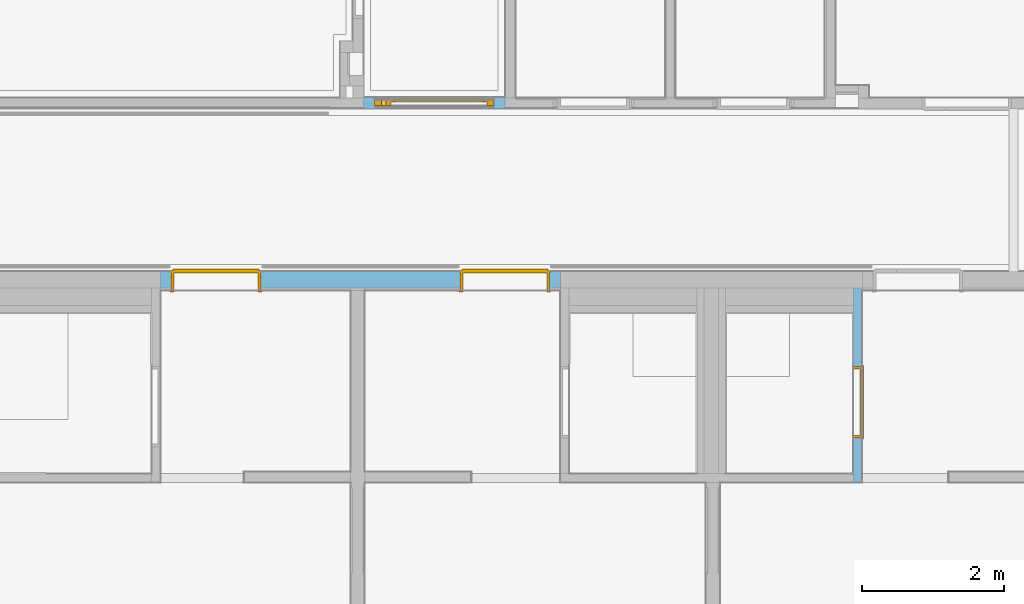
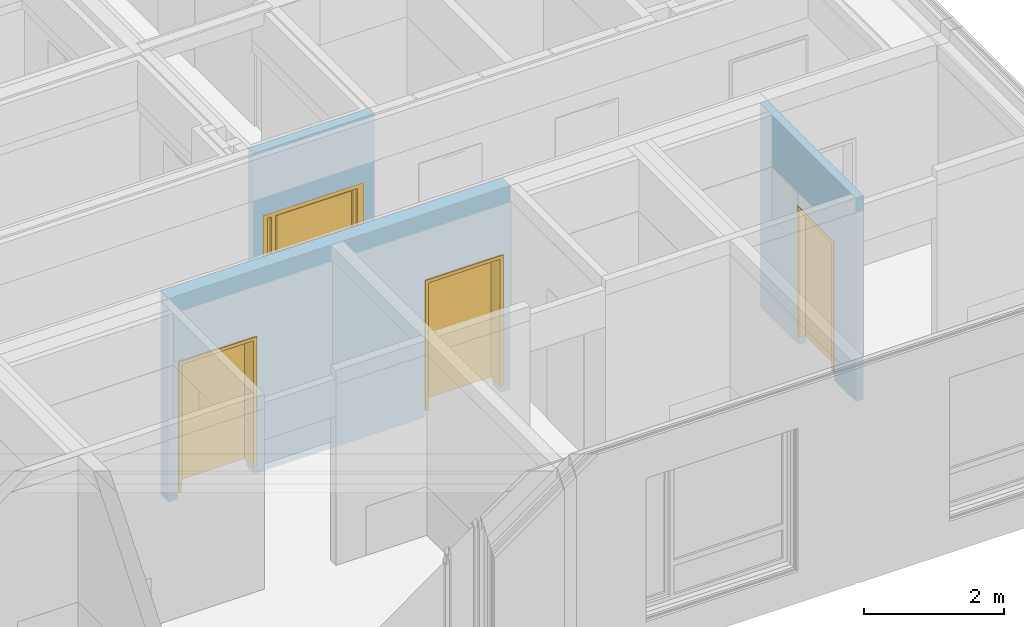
# One storey, part 132 of 222: 4 doors, 4 openings, plus 3 elements that do not belong to this part.
"""IFC4 building model written with IfcOpenShell, lengths in metres."""

import ifcopenshell
import ifcopenshell.guid

model = None  # the IFC model being written
_history = None  # IfcOwnerHistory: only IFC2X3 demands one
_inside = {}  # id of a spatial element -> (the spatial element, [elements in it])
_under = {}  # id of a project, library or spatial element -> (it, [spatial elements below it])
_declared = {}  # id of a project -> (the project, [libraries it declares])
_typed = {}  # id of a type object -> (the type object, [elements of that type])
_made_of = {}  # id of a material, layer set ... -> (it, [elements and type objects made of it])


def new_model(schema):
    """Start an empty IFC model of exactly this schema.

    Asked for "IFC4X3", IfcOpenShell would pick the latest addendum, in which some entities
    have other attributes; the version numbers below select the first issue.
    IFC2X3 requires an IfcOwnerHistory on every rooted entity: one is made here for all.
    """
    global model, _history
    if schema == "IFC4X3":
        model = ifcopenshell.file(schema_version=(4, 3, 0, 0))
    else:
        model = ifcopenshell.file(schema=schema)
    _inside.clear()
    _under.clear()
    _declared.clear()
    _typed.clear()
    _made_of.clear()
    _history = None
    if model.schema == "IFC2X3":
        org = make("IfcOrganization", Name="unknown")
        user = make(
            "IfcPersonAndOrganization",
            ThePerson=make("IfcPerson", FamilyName="unknown"),
            TheOrganization=org,
        )
        app = make(
            "IfcApplication",
            ApplicationDeveloper=org,
            Version="unknown",
            ApplicationFullName="unknown",
            ApplicationIdentifier="unknown",
        )
        _history = make(
            "IfcOwnerHistory",
            OwningUser=user,
            OwningApplication=app,
            ChangeAction="ADDED",
            CreationDate=0,
        )
    return model


def make(cls, **values):
    """One entity of the class cls with the attributes given. An attribute that is None is left unset."""
    return model.create_entity(
        cls, **{name: value for name, value in values.items() if value is not None}
    )


def entity(cls, *values):
    """Any entity or typed value of the class cls, its attributes in the order of the schema. None: left unset."""
    e = model.create_entity(cls)
    for i, value in enumerate(values):
        if value is not None:
            e[i] = value
    return e


def rooted(cls, **values):
    """An entity with a GlobalId (a new one), such as an element, a storey or a relation."""
    return make(cls, GlobalId=ifcopenshell.guid.new(), OwnerHistory=_history, **values)


def si_unit(unit_type, name, prefix=None):
    """IfcSIUnit, for example si_unit("LENGTHUNIT", "METRE", prefix="MILLI")."""
    return make("IfcSIUnit", UnitType=unit_type, Prefix=prefix, Name=name)


def converted_unit(unit_type, name, factor, base, dimensions=None, offset=None):
    """IfcConversionBasedUnit, such as the inch: factor (a typed value) times the base unit."""
    return make(
        "IfcConversionBasedUnit"
        if offset is None
        else "IfcConversionBasedUnitWithOffset",
        ConversionOffset=offset,
        Dimensions=None
        if dimensions is None
        else entity("IfcDimensionalExponents", *dimensions),
        UnitType=unit_type,
        Name=name,
        ConversionFactor=make(
            "IfcMeasureWithUnit", ValueComponent=factor, UnitComponent=base
        ),
    )


def derived_unit(unit_type, elements):
    """IfcDerivedUnit: a product of units, each with its exponent."""
    return make(
        "IfcDerivedUnit",
        Elements=[
            make("IfcDerivedUnitElement", Unit=unit, Exponent=power)
            for unit, power in elements
        ],
        UnitType=unit_type,
    )


def assignment(units):
    """IfcUnitAssignment: the units of a project."""
    return None if units is None else make("IfcUnitAssignment", Units=units)


def point(xyz):
    """IfcCartesianPoint."""
    return None if xyz is None else make("IfcCartesianPoint", Coordinates=xyz)


def direction(xyz):
    """IfcDirection."""
    return None if xyz is None else make("IfcDirection", DirectionRatios=xyz)


def frame(location, z_axis=None, x_axis=None):
    """IfcAxis2Placement3D, a coordinate frame: its origin and axes. An axis left out is left unset."""
    return make(
        "IfcAxis2Placement3D",
        Location=point(location),
        Axis=direction(z_axis),
        RefDirection=direction(x_axis),
    )


def frame_2d(location, x_axis=None):
    """IfcAxis2Placement2D, a coordinate frame in the plane: its origin and x axis."""
    return make(
        "IfcAxis2Placement2D", Location=point(location), RefDirection=direction(x_axis)
    )


def origin():
    """The frame at (0, 0, 0) with its axes left unset."""
    return frame((0.0, 0.0, 0.0))


def origin_with_axes():
    """The frame at (0, 0, 0) with the z axis (0, 0, 1) and the x axis (1, 0, 0) written out."""
    return frame((0.0, 0.0, 0.0), z_axis=(0.0, 0.0, 1.0), x_axis=(1.0, 0.0, 0.0))


def place(relative_to, where):
    """IfcLocalPlacement: puts the frame where relative to a parent placement (None: the world)."""
    return make(
        "IfcLocalPlacement", PlacementRelTo=relative_to, RelativePlacement=where
    )


def context(
    kind, dimensions, precision=None, world=None, true_north=None, identifier=None
):
    """IfcGeometricRepresentationContext, for example the 3D "Model" context."""
    return make(
        "IfcGeometricRepresentationContext",
        ContextIdentifier=identifier,
        ContextType=kind,
        CoordinateSpaceDimension=dimensions,
        Precision=precision,
        WorldCoordinateSystem=world,
        TrueNorth=true_north,
    )


def subcontext(parent, identifier, kind, view, scale=None):
    """IfcGeometricRepresentationSubContext, for example "Body" below "Model"."""
    return make(
        "IfcGeometricRepresentationSubContext",
        ContextIdentifier=identifier,
        ContextType=kind,
        ParentContext=parent,
        TargetScale=scale,
        TargetView=view,
    )


def project(units=None, contexts=None):
    """IfcProject with its units and contexts."""
    return rooted(
        "IfcProject",
        Name="project",
        RepresentationContexts=contexts,
        UnitsInContext=assignment(units),
    )


def spatial(cls, under=None, at=None, **own):
    """A site, building, storey or space (cls), placed at a placement, below another one or the project."""
    s = rooted(cls, ObjectPlacement=at, **own)
    if under is not None:
        _under.setdefault(under.id(), (under, []))[1].append(s)
    return s


def polyline(points):
    """IfcPolyline through the points."""
    return make("IfcPolyline", Points=[point(p) for p in points])


def profile(cls, at=None, kind="AREA", **sizes):
    """A parametric profile (cls). Its sizes go by their IFC names, for example OverallWidth=200.0."""
    return make(cls, ProfileType=kind, Position=at, **sizes)


def rectangle(**sizes):
    """IfcRectangleProfileDef."""
    return profile("IfcRectangleProfileDef", **sizes)


def outline(outer, holes=None, kind="AREA"):
    """IfcArbitraryClosedProfileDef: a profile drawn as a closed curve; with holes, ...WithVoids."""
    if holes is None:
        return make("IfcArbitraryClosedProfileDef", ProfileType=kind, OuterCurve=outer)
    return make(
        "IfcArbitraryProfileDefWithVoids",
        ProfileType=kind,
        OuterCurve=outer,
        InnerCurves=holes,
    )


def extrude(swept, where, along, depth):
    """IfcExtrudedAreaSolid: the profile swept, set in the frame where, extruded along a direction by depth."""
    return make(
        "IfcExtrudedAreaSolid",
        SweptArea=swept,
        Position=where,
        ExtrudedDirection=direction(along),
        Depth=depth,
    )


def faces_of(points, faces, orient=None, outer=None):
    """IfcFace entities. A face is a list of loops; a loop is a list of indices into points, from 0.

    orient and outer hold one flag for each loop. By default every Orientation is true, the
    first loop of a face is its IfcFaceOuterBound and the others are IfcFaceBound.
    """
    made = []
    for i, loops in enumerate(faces):
        bounds = []
        for j, loop in enumerate(loops):
            is_outer = j == 0 if outer is None else outer[i][j]
            bounds.append(
                make(
                    "IfcFaceOuterBound" if is_outer else "IfcFaceBound",
                    Bound=make("IfcPolyLoop", Polygon=[points[k] for k in loop]),
                    Orientation=True if orient is None else orient[i][j],
                )
            )
        made.append(make("IfcFace", Bounds=bounds))
    return made


def closed_shell(faces, orient=None, outer=None):
    """The faces of one IfcClosedShell. faceted_brep and surface_model build it on their shared points."""
    return ("IfcClosedShell", faces, orient, outer)


def open_shell(faces, orient=None, outer=None):
    """The faces of one IfcOpenShell. surface_model builds it on its shared points."""
    return ("IfcOpenShell", faces, orient, outer)


def faceted_brep(points, faces, orient=None, outer=None, voids=None):
    """IfcFacetedBrep: a solid bounded by flat faces; with voids (closed shells), ...WithVoids."""
    shared = [point(p) for p in points]
    hull = make("IfcClosedShell", CfsFaces=faces_of(shared, faces, orient, outer))
    if voids is None:
        return make("IfcFacetedBrep", Outer=hull)
    return make(
        "IfcFacetedBrepWithVoids",
        Outer=hull,
        Voids=[
            make(cls, CfsFaces=faces_of(shared, fs, o, b)) for cls, fs, o, b in voids
        ],
    )


def surface_model(cls, points, shells):
    """IfcFaceBasedSurfaceModel or IfcShellBasedSurfaceModel (cls): surfaces that need not close."""
    shared = [point(p) for p in points]
    made = [make(c, CfsFaces=faces_of(shared, fs, o, b)) for c, fs, o, b in shells]
    if cls == "IfcFaceBasedSurfaceModel":
        return make(cls, FbsmFaces=made)
    return make(cls, SbsmBoundary=made)


def shape(context_of_items, identifier, shape_type, items):
    """IfcShapeRepresentation: the items that make up one representation, for example the "Body"."""
    return make(
        "IfcShapeRepresentation",
        ContextOfItems=context_of_items,
        RepresentationIdentifier=identifier,
        RepresentationType=shape_type,
        Items=items,
    )


def source(mapping_origin, context_of_items, identifier, shape_type, items):
    """IfcRepresentationMap: a shape defined once, which mapped items show again and again."""
    return make(
        "IfcRepresentationMap",
        MappingOrigin=mapping_origin,
        MappedRepresentation=shape(context_of_items, identifier, shape_type, items),
    )


def transform(
    local_origin,
    x_axis=None,
    y_axis=None,
    z_axis=None,
    scale=None,
    scale2=None,
    scale3=None,
    uniform=True,
):
    """IfcCartesianTransformationOperator3D, or its non-uniform kind. x_axis, y_axis, z_axis: its Axis1, 2, 3."""
    if uniform:
        return make(
            "IfcCartesianTransformationOperator3D",
            Axis1=direction(x_axis),
            Axis2=direction(y_axis),
            LocalOrigin=point(local_origin),
            Scale=scale,
            Axis3=direction(z_axis),
        )
    return make(
        "IfcCartesianTransformationOperator3DnonUniform",
        Axis1=direction(x_axis),
        Axis2=direction(y_axis),
        LocalOrigin=point(local_origin),
        Scale=scale,
        Axis3=direction(z_axis),
        Scale2=scale2,
        Scale3=scale3,
    )


def mapped(mapping_source, mapping_target):
    """IfcMappedItem: shows the shape of a source again, moved by a transform."""
    return make(
        "IfcMappedItem", MappingSource=mapping_source, MappingTarget=mapping_target
    )


def material(Name=None, Category=None):
    """IfcMaterial."""
    return make("IfcMaterial", Name=Name, Category=Category)


def made_of(thing, what):
    """Note that an element or type object is made of a material, layer set ...; save() writes the relation."""
    if what is not None:
        _made_of.setdefault(what.id(), (what, []))[1].append(thing)
    return thing


def type_object(cls, material=None, **own):
    """A type object (cls), such as IfcWallType, which elements share."""
    return made_of(rooted(cls, **own), material)


def element(
    cls,
    number,
    at=None,
    inside=None,
    cuts=None,
    type_object=None,
    material=None,
    context=None,
    identifier="Body",
    shape_type=None,
    held_by="IfcProductDefinitionShape",
    body=None,
    shapes=None,
    **own,
):
    """One element of the class cls, such as IfcWall. Its Tag is "e" and its number.

    at: its placement. inside: the storey or other place that contains it. cuts: it is an
    opening in that element (IfcRelVoidsElement). A single representation is given by context,
    identifier, shape_type and body (its items); several are given by shapes. held_by: the class
    of the entity that holds the representations. save() writes the other relations.
    """
    e = rooted(cls, Tag="e%d" % number, ObjectPlacement=at, **own)
    if body is not None:
        shapes = [shape(context, identifier, shape_type, body)]
    if shapes is not None:
        e.Representation = make(held_by, Representations=shapes)
    if inside is not None:
        _inside.setdefault(inside.id(), (inside, []))[1].append(e)
    if cuts is not None:
        rooted(
            "IfcRelVoidsElement", RelatingBuildingElement=cuts, RelatedOpeningElement=e
        )
    if type_object is not None:
        _typed.setdefault(type_object.id(), (type_object, []))[1].append(e)
    return made_of(e, material)


def fill(opening, filler):
    """IfcRelFillsElement: the door or window that sits in an opening."""
    return rooted(
        "IfcRelFillsElement",
        RelatingOpeningElement=opening,
        RelatedBuildingElement=filler,
    )


def aggregate(whole, parts):
    """IfcRelAggregates: a whole, such as a stair, and the parts it consists of."""
    return rooted("IfcRelAggregates", RelatingObject=whole, RelatedObjects=parts)


def save(model, path):
    """Write the relations noted so far, then the file.

    IfcRelAggregates (storeys below a building ...), IfcRelContainedInSpatialStructure (elements
    in a storey), IfcRelDefinesByType, IfcRelAssociatesMaterial and IfcRelDeclares: one each for
    every whole, place, type object, material and project.
    """
    for whole, parts in _under.values():
        aggregate(whole, parts)
    for where, things in _inside.values():
        rooted(
            "IfcRelContainedInSpatialStructure",
            RelatedElements=things,
            RelatingStructure=where,
        )
    for kind, things in _typed.values():
        rooted("IfcRelDefinesByType", RelatedObjects=things, RelatingType=kind)
    for what, things in _made_of.values():
        rooted("IfcRelAssociatesMaterial", RelatedObjects=things, RelatingMaterial=what)
    for by, libraries in _declared.values():
        rooted("IfcRelDeclares", RelatingContext=by, RelatedDefinitions=libraries)
    model.write(path)


model = new_model("IFC4")

# Units and contexts
model_context = context("Model", 3, precision=1e-05, world=origin())
body_context = subcontext(model_context, "Body", "Model", "MODEL_VIEW")
ifc_project = project(units=[si_unit("LENGTHUNIT", "METRE"), si_unit("AREAUNIT", "SQUARE_METRE"), si_unit("VOLUMEUNIT", "CUBIC_METRE"), si_unit("MASSUNIT", "GRAM", prefix="KILO"), converted_unit("PLANEANGLEUNIT", "DEGREE", entity("IfcPlaneAngleMeasure", 0.0174532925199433), si_unit("PLANEANGLEUNIT", "RADIAN"), dimensions=[0, 0, 0, 0, 0, 0, 0]), derived_unit("THERMALTRANSMITTANCEUNIT", [(si_unit("POWERUNIT", "WATT"), 1), (si_unit("THERMODYNAMICTEMPERATUREUNIT", "KELVIN"), -1), (si_unit("LENGTHUNIT", "METRE"), -2)]), derived_unit("VOLUMETRICFLOWRATEUNIT", [(si_unit("LENGTHUNIT", "METRE"), 3), (converted_unit("TIMEUNIT", "hour", entity("IfcTimeMeasure", 3600.0), si_unit("TIMEUNIT", "SECOND"), dimensions=[0, 0, 1, 0, 0, 0, 0]), -1), (si_unit("LENGTHUNIT", "METRE"), -1)])], contexts=[model_context])

# Site, building, storey
site_placement = place(None, origin())
site = spatial("IfcSite", under=ifc_project, at=site_placement, Name="Psychiatrie Neubau Wunstorf", CompositionType="ELEMENT")
building_placement = place(site_placement, origin())
building = spatial("IfcBuilding", under=site, at=building_placement, Name="Neubau H2 Stationsgebäude", CompositionType="ELEMENT")
storey_placement = place(building_placement, frame((0.0, 0.0, 3.6)))
storey = spatial("IfcBuildingStorey", under=building, at=storey_placement, Name="H2 Ebene +1", CompositionType="ELEMENT", Elevation=3.6)

# Wall, opening, door
ifc_material_1 = material(Name="WI-LB")
wall_1_placement = place(storey_placement, frame((102.975, 5.1005, 0.0), z_axis=(0.0, 0.0, 1.0), x_axis=(0.0, -1.0, 0.0)))
wall_1 = element("IfcWall", 1, at=wall_1_placement, inside=storey, material=ifc_material_1, context=body_context, shape_type="SweptSolid", body=[
    extrude(rectangle(XDim=2.73999999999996, YDim=0.125, at=frame_2d((1.36999999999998, 0.0625), x_axis=(1.0, 0.0))), origin_with_axes(), (0.0, 0.0, 1.0), 3.55),
])
opening_1_placement = place(wall_1_placement, frame((1.10499999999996, 0.0, 0.0), z_axis=(0.0, 1.0, 0.0), x_axis=(0.0, 0.0, 1.0)))
opening_1 = element("IfcOpeningElement", 2, at=opening_1_placement, cuts=wall_1, Name="Türöffnung", ObjectType="Opening", context=body_context, shape_type="SweptSolid", body=[
    extrude(outline(polyline([(2.41, 1.01), (2.41, 0.0), (0.0, 0.0), (0.0, 1.01), (2.41, 1.01)])), origin_with_axes(), (0.0, 0.0, 1.0), 0.125),
])
ifc_material_2 = material(Name="TI-1F-UZ-D-N")
door_type_1 = type_object("IfcDoorType", Name="SMT", OperationType="SINGLE_SWING_RIGHT", ParameterTakesPrecedence=False, PredefinedType="DOOR")
shared_shape_1 = source(origin_with_axes(), body_context, "Body", "Brep", [
    faceted_brep([(-0.0399999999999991, 0.0124999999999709, 0.0), (0.0, 0.0124999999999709, 0.0), (0.0, 0.112499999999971, 0.0), (-0.0399999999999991, 0.112499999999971, 0.0), (-0.0399999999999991, 0.112499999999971, 3.55), (0.0, 0.112499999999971, 3.55), (0.0, 0.0124999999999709, 3.55), (-0.0399999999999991, 0.0124999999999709, 3.55)], [[[0, 1, 2, 3]], [[4, 5, 6, 7]], [[3, 4, 7, 0]], [[2, 5, 4, 3]], [[1, 6, 5, 2]], [[0, 7, 6, 1]]], orient=[[False], [False], [False], [False], [False], [False]]),
    faceted_brep([(1.01, 0.0124999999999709, 0.0), (1.05, 0.0124999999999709, 0.0), (1.05, 0.112499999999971, 0.0), (1.01, 0.112499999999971, 0.0), (1.01, 0.112499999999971, 3.55), (1.05, 0.112499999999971, 3.55), (1.05, 0.0124999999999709, 3.55), (1.01, 0.0124999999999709, 3.55)], [[[0, 1, 2, 3]], [[4, 5, 6, 7]], [[3, 4, 7, 0]], [[2, 5, 4, 3]], [[1, 6, 5, 2]], [[0, 7, 6, 1]]], orient=[[False], [False], [False], [False], [False], [False]]),
    faceted_brep([(0.0, 0.0124999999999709, 2.41), (1.01, 0.0124999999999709, 2.41), (1.01, 0.112499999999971, 2.41), (0.0, 0.112499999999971, 2.41), (0.0, 0.112499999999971, 2.45), (1.01, 0.112499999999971, 2.45), (1.01, 0.0124999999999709, 2.45), (0.0, 0.0124999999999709, 2.45)], [[[0, 1, 2, 3]], [[4, 5, 6, 7]], [[3, 4, 7, 0]], [[2, 5, 4, 3]], [[1, 6, 5, 2]], [[0, 7, 6, 1]]], orient=[[False], [False], [False], [False], [False], [False]]),
])
shared_shape_2 = source(origin_with_axes(), body_context, "Body", "Brep", [
    faceted_brep([(0.0, -0.0150000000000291, 2.41), (0.0400000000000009, -0.0150000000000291, 2.41), (0.0400000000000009, -0.0150000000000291, 0.15), (0.0, -0.0150000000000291, 0.15), (0.0, 0.139999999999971, 0.15), (0.0400000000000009, 0.139999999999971, 0.15), (0.0400000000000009, 0.139999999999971, 2.41), (0.0, 0.139999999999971, 2.41)], [[[0, 1, 2, 3]], [[4, 5, 6, 7]], [[3, 4, 7, 0]], [[2, 5, 4, 3]], [[1, 6, 5, 2]], [[0, 7, 6, 1]]], orient=[[False], [False], [False], [False], [False], [False]]),
    faceted_brep([(0.0, -0.0150000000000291, 2.425), (0.0, -0.0150000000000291, 0.15), (-0.0149999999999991, -0.0150000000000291, 0.15), (-0.0149999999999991, -0.0150000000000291, 2.425), (0.0, 0.0, 0.15), (0.0, 0.0, 2.425), (-0.0149999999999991, 0.0, 2.425), (-0.0149999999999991, 0.0, 0.15)], [[[0, 1, 2, 3]], [[4, 5, 6, 7]], [[1, 0, 5, 4]], [[2, 1, 4, 7]], [[3, 2, 7, 6]], [[0, 3, 6, 5]]], orient=[[False], [False], [False], [False], [False], [False]]),
    faceted_brep([(0.0, 0.124999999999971, 2.425), (0.0, 0.124999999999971, 0.15), (-0.0149999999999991, 0.124999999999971, 0.15), (-0.0149999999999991, 0.124999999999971, 2.425), (0.0, 0.139999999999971, 0.15), (0.0, 0.139999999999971, 2.425), (-0.0149999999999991, 0.139999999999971, 2.425), (-0.0149999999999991, 0.139999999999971, 0.15)], [[[0, 1, 2, 3]], [[4, 5, 6, 7]], [[1, 0, 5, 4]], [[2, 1, 4, 7]], [[3, 2, 7, 6]], [[0, 3, 6, 5]]], orient=[[False], [False], [False], [False], [False], [False]]),
    faceted_brep([(0.970000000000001, -0.0150000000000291, 2.41), (1.01, -0.0150000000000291, 2.41), (1.01, -0.0150000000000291, 0.15), (0.970000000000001, -0.0150000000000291, 0.15), (0.970000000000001, 0.139999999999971, 0.15), (1.01, 0.139999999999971, 0.15), (1.01, 0.139999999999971, 2.41), (0.970000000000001, 0.139999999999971, 2.41)], [[[0, 1, 2, 3]], [[4, 5, 6, 7]], [[3, 4, 7, 0]], [[2, 5, 4, 3]], [[1, 6, 5, 2]], [[0, 7, 6, 1]]], orient=[[False], [False], [False], [False], [False], [False]]),
    faceted_brep([(1.01, -0.0150000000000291, 2.425), (1.025, -0.0150000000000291, 2.425), (1.025, -0.0150000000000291, 0.15), (1.01, -0.0150000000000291, 0.15), (1.01, 0.0, 0.15), (1.025, 0.0, 0.15), (1.025, 0.0, 2.425), (1.01, 0.0, 2.425)], [[[0, 1, 2, 3]], [[4, 5, 6, 7]], [[3, 4, 7, 0]], [[2, 5, 4, 3]], [[1, 6, 5, 2]], [[0, 7, 6, 1]]], orient=[[False], [False], [False], [False], [False], [False]]),
    faceted_brep([(1.01, 0.124999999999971, 2.425), (1.025, 0.124999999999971, 2.425), (1.025, 0.124999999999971, 0.15), (1.01, 0.124999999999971, 0.15), (1.01, 0.139999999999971, 0.15), (1.025, 0.139999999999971, 0.15), (1.025, 0.139999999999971, 2.425), (1.01, 0.139999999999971, 2.425)], [[[0, 1, 2, 3]], [[4, 5, 6, 7]], [[3, 4, 7, 0]], [[2, 5, 4, 3]], [[1, 6, 5, 2]], [[0, 7, 6, 1]]], orient=[[False], [False], [False], [False], [False], [False]]),
    faceted_brep([(0.0400000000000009, -0.0150000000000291, 2.41), (0.970000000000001, -0.0150000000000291, 2.41), (0.970000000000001, -0.0150000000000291, 2.37), (0.0400000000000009, -0.0150000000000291, 2.37), (0.0400000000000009, 0.139999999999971, 2.37), (0.970000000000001, 0.139999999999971, 2.37), (0.970000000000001, 0.139999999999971, 2.41), (0.0400000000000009, 0.139999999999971, 2.41)], [[[0, 1, 2, 3]], [[4, 5, 6, 7]], [[3, 4, 7, 0]], [[2, 5, 4, 3]], [[1, 6, 5, 2]], [[0, 7, 6, 1]]], orient=[[False], [False], [False], [False], [False], [False]]),
    faceted_brep([(0.0, -0.0150000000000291, 2.425), (1.01, -0.0150000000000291, 2.425), (1.01, -0.0150000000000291, 2.41), (0.0, -0.0150000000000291, 2.41), (0.0, 0.0, 2.41), (1.01, 0.0, 2.41), (1.01, 0.0, 2.425), (0.0, 0.0, 2.425)], [[[0, 1, 2, 3]], [[4, 5, 6, 7]], [[3, 4, 7, 0]], [[2, 5, 4, 3]], [[1, 6, 5, 2]], [[0, 7, 6, 1]]], orient=[[False], [False], [False], [False], [False], [False]]),
    faceted_brep([(0.0, 0.124999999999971, 2.425), (1.01, 0.124999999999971, 2.425), (1.01, 0.124999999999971, 2.41), (0.0, 0.124999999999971, 2.41), (0.0, 0.139999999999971, 2.41), (1.01, 0.139999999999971, 2.41), (1.01, 0.139999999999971, 2.425), (0.0, 0.139999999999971, 2.425)], [[[0, 1, 2, 3]], [[4, 5, 6, 7]], [[3, 4, 7, 0]], [[2, 5, 4, 3]], [[1, 6, 5, 2]], [[0, 7, 6, 1]]], orient=[[False], [False], [False], [False], [False], [False]]),
    faceted_brep([(0.0250000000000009, 0.0909999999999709, 2.385), (0.985000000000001, 0.0909999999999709, 2.385), (0.985000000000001, 0.0909999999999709, 0.15), (0.0250000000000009, 0.0909999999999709, 0.15), (0.0250000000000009, 0.140999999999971, 0.15), (0.985000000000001, 0.140999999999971, 0.15), (0.985000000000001, 0.140999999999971, 2.385), (0.0250000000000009, 0.140999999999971, 2.385)], [[[0, 1, 2, 3]], [[4, 5, 6, 7]], [[3, 4, 7, 0]], [[2, 5, 4, 3]], [[1, 6, 5, 2]], [[0, 7, 6, 1]]], orient=[[False], [False], [False], [False], [False], [False]]),
])
door_1_placement = place(opening_1_placement, frame((0.0, 0.0, 0.0), z_axis=(1.0, 0.0, 0.0), x_axis=(0.0, 1.0, 0.0)))
door_1 = element("IfcDoor", 3, at=door_1_placement, inside=storey, type_object=door_type_1, material=ifc_material_2, Name="SMT", OverallHeight=2.41, OverallWidth=1.01, context=body_context, shape_type="MappedRepresentation", body=[
    mapped(shared_shape_1, transform((0.0, 0.0, 0.0), x_axis=(1.0, 0.0, 0.0), y_axis=(0.0, 1.0, 0.0), z_axis=(0.0, 0.0, 1.0), scale=1.0)),
    mapped(shared_shape_2, transform((0.0, 0.0, 0.0), x_axis=(1.0, 0.0, 0.0), y_axis=(0.0, 1.0, 0.0), z_axis=(0.0, 0.0, 1.0), scale=1.0)),
])
fill(opening_1, door_1)

# Wall, openings, doors
ifc_material_3 = material(Name="WI-HW 60")
wall_2_placement = place(storey_placement, frame((98.85, 5.33250000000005, 0.0), z_axis=(0.0, 0.0, 1.0), x_axis=(-1.0, 0.0, 0.0)))
wall_2 = element("IfcWall", 4, at=wall_2_placement, inside=storey, material=ifc_material_3, context=body_context, shape_type="SweptSolid", body=[
    extrude(rectangle(XDim=5.62499995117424, YDim=0.232, at=frame_2d((2.81249997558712, 0.116), x_axis=(1.0, 0.0))), origin_with_axes(), (0.0, 0.0, 1.0), 3.55),
])
opening_2_placement = place(wall_2_placement, frame((0.15, 0.0, 0.0), z_axis=(0.0, 1.0, 0.0), x_axis=(0.0, 0.0, 1.0)))
opening_2 = element("IfcOpeningElement", 5, at=opening_2_placement, cuts=wall_2, Name="Türöffnung", ObjectType="Opening", context=body_context, shape_type="SweptSolid", body=[
    extrude(outline(polyline([(2.41, 1.26), (2.41, 0.0), (0.0, 0.0), (0.0, 1.26), (2.41, 1.26)])), origin_with_axes(), (0.0, 0.0, 1.0), 0.232),
])
opening_3_placement = place(wall_2_placement, frame((4.21499995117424, 0.0, 0.0), z_axis=(0.0, 1.0, 0.0), x_axis=(0.0, 0.0, 1.0)))
opening_3 = element("IfcOpeningElement", 6, at=opening_3_placement, cuts=wall_2, Name="Türöffnung", ObjectType="Opening", context=body_context, shape_type="SweptSolid", body=[
    extrude(outline(polyline([(2.41, 1.26), (2.41, 0.0), (0.0, 0.0), (0.0, 1.26), (2.41, 1.26)])), origin_with_axes(), (0.0, 0.0, 1.0), 0.232),
])
ifc_material_4 = material(Name="TI-2F-UZ-D")
door_type_2 = type_object("IfcDoorType", Name="SMT", OperationType="DOUBLE_DOOR_SINGLE_SWING", ParameterTakesPrecedence=False, PredefinedType="DOOR")
shared_shape_3 = source(origin_with_axes(), body_context, "Body", "Brep", [
    faceted_brep([(0.0, -0.0150000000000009, 2.41), (0.04, -0.0150000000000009, 2.41), (0.04, -0.0150000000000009, 0.15), (0.0, -0.0150000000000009, 0.15), (0.0, 0.287, 0.15), (0.04, 0.287, 0.15), (0.04, 0.287, 2.41), (0.0, 0.287, 2.41)], [[[0, 1, 2, 3]], [[4, 5, 6, 7]], [[3, 4, 7, 0]], [[2, 5, 4, 3]], [[1, 6, 5, 2]], [[0, 7, 6, 1]]], orient=[[False], [False], [False], [False], [False], [False]]),
    faceted_brep([(0.0, -0.0150000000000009, 2.425), (0.0, -0.0150000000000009, 0.15), (-0.015, -0.0150000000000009, 0.15), (-0.015, -0.0150000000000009, 2.425), (0.0, 0.0, 0.15), (0.0, 0.0, 2.425), (-0.015, 0.0, 2.425), (-0.015, 0.0, 0.15)], [[[0, 1, 2, 3]], [[4, 5, 6, 7]], [[1, 0, 5, 4]], [[2, 1, 4, 7]], [[3, 2, 7, 6]], [[0, 3, 6, 5]]], orient=[[False], [False], [False], [False], [False], [False]]),
    faceted_brep([(0.0, 0.272, 2.425), (0.0, 0.272, 0.15), (-0.015, 0.272, 0.15), (-0.015, 0.272, 2.425), (0.0, 0.287, 0.15), (0.0, 0.287, 2.425), (-0.015, 0.287, 2.425), (-0.015, 0.287, 0.15)], [[[0, 1, 2, 3]], [[4, 5, 6, 7]], [[1, 0, 5, 4]], [[2, 1, 4, 7]], [[3, 2, 7, 6]], [[0, 3, 6, 5]]], orient=[[False], [False], [False], [False], [False], [False]]),
    faceted_brep([(1.22, -0.0150000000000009, 2.41), (1.26, -0.0150000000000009, 2.41), (1.26, -0.0150000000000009, 0.15), (1.22, -0.0150000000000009, 0.15), (1.22, 0.287, 0.15), (1.26, 0.287, 0.15), (1.26, 0.287, 2.41), (1.22, 0.287, 2.41)], [[[0, 1, 2, 3]], [[4, 5, 6, 7]], [[3, 4, 7, 0]], [[2, 5, 4, 3]], [[1, 6, 5, 2]], [[0, 7, 6, 1]]], orient=[[False], [False], [False], [False], [False], [False]]),
    faceted_brep([(1.26, -0.0150000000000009, 2.425), (1.275, -0.0150000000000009, 2.425), (1.275, -0.0150000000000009, 0.15), (1.26, -0.0150000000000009, 0.15), (1.26, 0.0, 0.15), (1.275, 0.0, 0.15), (1.275, 0.0, 2.425), (1.26, 0.0, 2.425)], [[[0, 1, 2, 3]], [[4, 5, 6, 7]], [[3, 4, 7, 0]], [[2, 5, 4, 3]], [[1, 6, 5, 2]], [[0, 7, 6, 1]]], orient=[[False], [False], [False], [False], [False], [False]]),
    faceted_brep([(1.26, 0.271999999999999, 2.425), (1.275, 0.271999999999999, 2.425), (1.275, 0.272, 0.15), (1.26, 0.272, 0.15), (1.26, 0.287, 0.15), (1.275, 0.287, 0.15), (1.275, 0.286999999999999, 2.425), (1.26, 0.286999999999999, 2.425)], [[[0, 1, 2, 3]], [[4, 5, 6, 7]], [[3, 4, 7, 0]], [[2, 5, 4, 3]], [[1, 6, 5, 2]], [[0, 7, 6, 1]]], orient=[[False], [False], [False], [False], [False], [False]]),
    faceted_brep([(0.04, -0.0150000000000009, 2.41), (1.22, -0.0150000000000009, 2.41), (1.22, -0.0150000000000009, 2.37), (0.04, -0.0150000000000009, 2.37), (0.04, 0.287, 2.37), (1.22, 0.287, 2.37), (1.22, 0.287, 2.41), (0.04, 0.287, 2.41)], [[[0, 1, 2, 3]], [[4, 5, 6, 7]], [[3, 4, 7, 0]], [[2, 5, 4, 3]], [[1, 6, 5, 2]], [[0, 7, 6, 1]]], orient=[[False], [False], [False], [False], [False], [False]]),
    faceted_brep([(0.0, -0.0150000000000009, 2.425), (1.26, -0.0150000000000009, 2.425), (1.26, -0.0150000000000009, 2.41), (0.0, -0.0150000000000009, 2.41), (0.0, 0.0, 2.41), (1.26, 0.0, 2.41), (1.26, 0.0, 2.425), (0.0, 0.0, 2.425)], [[[0, 1, 2, 3]], [[4, 5, 6, 7]], [[3, 4, 7, 0]], [[2, 5, 4, 3]], [[1, 6, 5, 2]], [[0, 7, 6, 1]]], orient=[[False], [False], [False], [False], [False], [False]]),
    faceted_brep([(0.0, 0.272, 2.425), (1.26, 0.271999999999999, 2.425), (1.26, 0.271999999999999, 2.41), (0.0, 0.272, 2.41), (0.0, 0.287, 2.41), (1.26, 0.286999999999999, 2.41), (1.26, 0.286999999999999, 2.425), (0.0, 0.287, 2.425)], [[[0, 1, 2, 3]], [[4, 5, 6, 7]], [[3, 4, 7, 0]], [[2, 5, 4, 3]], [[1, 6, 5, 2]], [[0, 7, 6, 1]]], orient=[[False], [False], [False], [False], [False], [False]]),
    faceted_brep([(0.025, 0.252, 2.385), (0.925, 0.252, 2.385), (0.925, 0.252, 0.15), (0.025, 0.252, 0.15), (0.025, 0.302, 0.15), (0.925, 0.302, 0.15), (0.925, 0.302, 2.385), (0.025, 0.302, 2.385)], [[[0, 1, 2, 3]], [[4, 5, 6, 7]], [[3, 4, 7, 0]], [[2, 5, 4, 3]], [[1, 6, 5, 2]], [[0, 7, 6, 1]]], orient=[[False], [False], [False], [False], [False], [False]]),
    faceted_brep([(0.926, 0.252, 2.385), (1.235, 0.252, 2.385), (1.235, 0.252, 0.15), (0.926, 0.252, 0.15), (0.926, 0.302, 0.15), (1.235, 0.302, 0.15), (1.235, 0.302, 2.385), (0.926, 0.302, 2.385)], [[[0, 1, 2, 3]], [[4, 5, 6, 7]], [[3, 4, 7, 0]], [[2, 5, 4, 3]], [[1, 6, 5, 2]], [[0, 7, 6, 1]]], orient=[[False], [False], [False], [False], [False], [False]]),
])
door_2_placement = place(opening_2_placement, frame((0.0, 1.26, 0.272), z_axis=(1.0, 0.0, 0.0), x_axis=(0.0, -1.0, 0.0)))
door_2 = element("IfcDoor", 7, at=door_2_placement, inside=storey, type_object=door_type_2, material=ifc_material_4, Name="SMT", OverallHeight=2.41, OverallWidth=1.26, context=body_context, shape_type="MappedRepresentation", body=[
    mapped(shared_shape_3, transform((0.0, 0.0, 0.0), x_axis=(1.0, 0.0, 0.0), y_axis=(0.0, 1.0, 0.0), z_axis=(0.0, 0.0, 1.0), scale=1.0)),
])
fill(opening_2, door_2)
ifc_material_5 = material(Name="TI-2F-UZ-D")
door_type_3 = type_object("IfcDoorType", Name="SMT", OperationType="DOUBLE_DOOR_SINGLE_SWING", ParameterTakesPrecedence=False, PredefinedType="DOOR")
shared_shape_4 = source(origin_with_axes(), body_context, "Body", "Brep", [
    faceted_brep([(1.26, -0.015, 2.41), (1.26, -0.015, 0.15), (1.22, -0.015, 0.15), (1.22, -0.015, 2.41), (1.26, 0.287, 0.15), (1.26, 0.287, 2.41), (1.22, 0.287, 2.41), (1.22, 0.287, 0.15)], [[[0, 1, 2, 3]], [[4, 5, 6, 7]], [[1, 0, 5, 4]], [[2, 1, 4, 7]], [[3, 2, 7, 6]], [[0, 3, 6, 5]]], orient=[[False], [False], [False], [False], [False], [False]]),
    faceted_brep([(1.26, -0.015, 2.425), (1.275, -0.015, 2.425), (1.275, -0.015, 0.15), (1.26, -0.015, 0.15), (1.26, 0.0, 0.15), (1.275, 0.0, 0.15), (1.275, 0.0, 2.425), (1.26, 0.0, 2.425)], [[[0, 1, 2, 3]], [[4, 5, 6, 7]], [[3, 4, 7, 0]], [[2, 5, 4, 3]], [[1, 6, 5, 2]], [[0, 7, 6, 1]]], orient=[[False], [False], [False], [False], [False], [False]]),
    faceted_brep([(1.26, 0.272, 2.425), (1.275, 0.272, 2.425), (1.275, 0.272, 0.15), (1.26, 0.272, 0.15), (1.26, 0.287, 0.15), (1.275, 0.287, 0.15), (1.275, 0.287, 2.425), (1.26, 0.287, 2.425)], [[[0, 1, 2, 3]], [[4, 5, 6, 7]], [[3, 4, 7, 0]], [[2, 5, 4, 3]], [[1, 6, 5, 2]], [[0, 7, 6, 1]]], orient=[[False], [False], [False], [False], [False], [False]]),
    faceted_brep([(0.04, -0.015, 2.41), (0.04, -0.015, 0.15), (0.0, -0.015, 0.15), (0.0, -0.015, 2.41), (0.04, 0.287, 0.15), (0.04, 0.287, 2.41), (0.0, 0.287, 2.41), (0.0, 0.287, 0.15)], [[[0, 1, 2, 3]], [[4, 5, 6, 7]], [[1, 0, 5, 4]], [[2, 1, 4, 7]], [[3, 2, 7, 6]], [[0, 3, 6, 5]]], orient=[[False], [False], [False], [False], [False], [False]]),
    faceted_brep([(0.0, -0.015, 2.425), (0.0, -0.015, 0.15), (-0.015, -0.015, 0.15), (-0.015, -0.015, 2.425), (0.0, 0.0, 0.15), (0.0, 0.0, 2.425), (-0.015, 0.0, 2.425), (-0.015, 0.0, 0.15)], [[[0, 1, 2, 3]], [[4, 5, 6, 7]], [[1, 0, 5, 4]], [[2, 1, 4, 7]], [[3, 2, 7, 6]], [[0, 3, 6, 5]]], orient=[[False], [False], [False], [False], [False], [False]]),
    faceted_brep([(0.0, 0.272, 2.425), (0.0, 0.272, 0.15), (-0.015, 0.272, 0.15), (-0.015, 0.272, 2.425), (0.0, 0.287, 0.15), (0.0, 0.287, 2.425), (-0.015, 0.287, 2.425), (-0.015, 0.287, 0.15)], [[[0, 1, 2, 3]], [[4, 5, 6, 7]], [[1, 0, 5, 4]], [[2, 1, 4, 7]], [[3, 2, 7, 6]], [[0, 3, 6, 5]]], orient=[[False], [False], [False], [False], [False], [False]]),
    faceted_brep([(1.22, -0.015, 2.41), (1.22, -0.015, 2.37), (0.04, -0.015, 2.37), (0.04, -0.015, 2.41), (1.22, 0.287, 2.37), (1.22, 0.287, 2.41), (0.04, 0.287, 2.41), (0.04, 0.287, 2.37)], [[[0, 1, 2, 3]], [[4, 5, 6, 7]], [[1, 0, 5, 4]], [[2, 1, 4, 7]], [[3, 2, 7, 6]], [[0, 3, 6, 5]]], orient=[[False], [False], [False], [False], [False], [False]]),
    faceted_brep([(1.26, -0.015, 2.425), (1.26, -0.015, 2.41), (0.0, -0.015, 2.41), (0.0, -0.015, 2.425), (1.26, 0.0, 2.41), (1.26, 0.0, 2.425), (0.0, 0.0, 2.425), (0.0, 0.0, 2.41)], [[[0, 1, 2, 3]], [[4, 5, 6, 7]], [[1, 0, 5, 4]], [[2, 1, 4, 7]], [[3, 2, 7, 6]], [[0, 3, 6, 5]]], orient=[[False], [False], [False], [False], [False], [False]]),
    faceted_brep([(1.26, 0.272, 2.425), (1.26, 0.272, 2.41), (0.0, 0.272, 2.41), (0.0, 0.272, 2.425), (1.26, 0.287, 2.41), (1.26, 0.287, 2.425), (0.0, 0.287, 2.425), (0.0, 0.287, 2.41)], [[[0, 1, 2, 3]], [[4, 5, 6, 7]], [[1, 0, 5, 4]], [[2, 1, 4, 7]], [[3, 2, 7, 6]], [[0, 3, 6, 5]]], orient=[[False], [False], [False], [False], [False], [False]]),
    faceted_brep([(1.235, 0.252, 2.385), (1.235, 0.252, 0.15), (0.335, 0.252, 0.15), (0.335, 0.252, 2.385), (1.235, 0.302, 0.15), (1.235, 0.302, 2.385), (0.335, 0.302, 2.385), (0.335, 0.302, 0.15)], [[[0, 1, 2, 3]], [[4, 5, 6, 7]], [[1, 0, 5, 4]], [[2, 1, 4, 7]], [[3, 2, 7, 6]], [[0, 3, 6, 5]]], orient=[[False], [False], [False], [False], [False], [False]]),
    faceted_brep([(0.334, 0.252, 2.385), (0.334, 0.252, 0.15), (0.025, 0.252, 0.15), (0.025, 0.252, 2.385), (0.334, 0.302, 0.15), (0.334, 0.302, 2.385), (0.025, 0.302, 2.385), (0.025, 0.302, 0.15)], [[[0, 1, 2, 3]], [[4, 5, 6, 7]], [[1, 0, 5, 4]], [[2, 1, 4, 7]], [[3, 2, 7, 6]], [[0, 3, 6, 5]]], orient=[[False], [False], [False], [False], [False], [False]]),
])
door_3_placement = place(opening_3_placement, frame((0.0, 1.26, 0.272), z_axis=(1.0, 0.0, 0.0), x_axis=(0.0, -1.0, 0.0)))
door_3 = element("IfcDoor", 8, at=door_3_placement, inside=storey, type_object=door_type_3, material=ifc_material_5, Name="SMT", OverallHeight=2.41, OverallWidth=1.26, context=body_context, shape_type="MappedRepresentation", body=[
    mapped(shared_shape_4, transform((0.0, 0.0, 0.0), x_axis=(1.0, 0.0, 0.0), y_axis=(0.0, 1.0, 0.0), z_axis=(0.0, 0.0, 1.0), scale=1.0)),
])
fill(opening_3, door_3)

# Wall, opening, door
ifc_material_6 = material(Name="WI-LB")
wall_3_placement = place(storey_placement, frame((98.075, 7.7799998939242, 0.0), z_axis=(0.0, 0.0, 1.0), x_axis=(-1.0, 0.0, 0.0)))
wall_3 = element("IfcWall", 9, at=wall_3_placement, inside=storey, material=ifc_material_6, context=body_context, shape_type="SweptSolid", body=[
    extrude(rectangle(XDim=1.99249996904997, YDim=0.155, at=frame_2d((0.996249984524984, 0.0775), x_axis=(1.0, 0.0))), origin_with_axes(), (0.0, 0.0, 1.0), 3.55),
])
opening_4_placement = place(wall_3_placement, frame((1.83749998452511, 0.155, 0.0), z_axis=(0.0, -1.0, 0.0), x_axis=(0.0, 0.0, 1.0)))
opening_4 = element("IfcOpeningElement", 10, at=opening_4_placement, cuts=wall_3, Name="Türöffnung", ObjectType="Opening", context=body_context, shape_type="SweptSolid", body=[
    extrude(outline(polyline([(2.41, 1.6825), (2.41, 0.0), (0.0, 0.0), (0.0, 1.6825), (2.41, 1.6825)])), origin_with_axes(), (0.0, 0.0, 1.0), 0.155),
])
ifc_material_7 = material(Name="TI-2F-AG-D-O")
door_type_4 = type_object("IfcDoorType", Name="SMT", OperationType="NOTDEFINED", ParameterTakesPrecedence=False, PredefinedType="DOOR")
shared_shape_5 = source(origin_with_axes(), body_context, "Body", "Brep", [
    faceted_brep([(-0.1275, 0.124999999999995, 0.0), (-0.1275, 0.0249999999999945, 0.0), (-0.0275, 0.0249999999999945, 0.0), (-0.0275, 0.124999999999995, 0.0), (-0.1275, 0.0249999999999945, 3.55), (-0.1275, 0.124999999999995, 3.55), (-0.0275, 0.124999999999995, 3.55), (-0.0275, 0.0249999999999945, 3.55)], [[[0, 1, 2, 3]], [[4, 5, 6, 7]], [[1, 0, 5, 4]], [[2, 1, 4, 7]], [[3, 2, 7, 6]], [[0, 3, 6, 5]]], orient=[[False], [False], [False], [False], [False], [False]]),
    faceted_brep([(1.71, 0.124999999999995, 0.0), (1.71, 0.0249999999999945, 0.0), (1.81, 0.0249999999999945, 0.0), (1.81, 0.124999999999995, 0.0), (1.71, 0.0249999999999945, 3.55), (1.71, 0.124999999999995, 3.55), (1.81, 0.124999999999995, 3.55), (1.81, 0.0249999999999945, 3.55)], [[[0, 1, 2, 3]], [[4, 5, 6, 7]], [[1, 0, 5, 4]], [[2, 1, 4, 7]], [[3, 2, 7, 6]], [[0, 3, 6, 5]]], orient=[[False], [False], [False], [False], [False], [False]]),
    faceted_brep([(-0.0275, 0.124999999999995, 2.4375), (-0.0275, 0.0249999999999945, 2.4375), (1.71, 0.0249999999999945, 2.4375), (1.71, 0.124999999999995, 2.4375), (-0.0275, 0.0249999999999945, 2.5375), (-0.0275, 0.124999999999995, 2.5375), (1.71, 0.124999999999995, 2.5375), (1.71, 0.0249999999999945, 2.5375)], [[[0, 1, 2, 3]], [[4, 5, 6, 7]], [[1, 0, 5, 4]], [[2, 1, 4, 7]], [[3, 2, 7, 6]], [[0, 3, 6, 5]]], orient=[[False], [False], [False], [False], [False], [False]]),
])
shared_shape_6 = source(origin_with_axes(), body_context, "Body", "SurfaceModel", [
    surface_model("IfcShellBasedSurfaceModel", [(0.0, 0.0399999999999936, 2.41), (0.1, 0.0399999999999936, 2.41), (0.1, 0.0399999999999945, 0.15), (0.0, 0.0399999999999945, 0.15), (0.0, 0.109999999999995, 0.15), (0.1, 0.109999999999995, 0.15), (0.1, 0.109999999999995, 2.41), (0.0, 0.109999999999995, 2.41)], [closed_shell([[[0, 1, 2, 3]], [[4, 5, 6, 7]], [[3, 4, 7, 0]], [[2, 5, 4, 3]], [[1, 6, 5, 2]], [[0, 7, 6, 1]]], orient=[[False], [False], [False], [False], [False], [False]])]),
    surface_model("IfcShellBasedSurfaceModel", [(1.5825, 0.0399999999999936, 2.41), (1.6825, 0.0399999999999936, 2.41), (1.6825, 0.0399999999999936, 0.15), (1.5825, 0.0399999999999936, 0.15), (1.5825, 0.109999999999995, 0.15), (1.6825, 0.109999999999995, 0.15), (1.6825, 0.109999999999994, 2.41), (1.5825, 0.109999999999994, 2.41)], [closed_shell([[[0, 1, 2, 3]], [[4, 5, 6, 7]], [[3, 4, 7, 0]], [[2, 5, 4, 3]], [[1, 6, 5, 2]], [[0, 7, 6, 1]]], orient=[[False], [False], [False], [False], [False], [False]])]),
    surface_model("IfcShellBasedSurfaceModel", [(0.1, 0.0399999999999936, 2.41), (1.5825, 0.0399999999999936, 2.41), (1.5825, 0.0399999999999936, 2.31), (0.1, 0.0399999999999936, 2.31), (0.1, 0.109999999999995, 2.31), (1.5825, 0.109999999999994, 2.31), (1.5825, 0.109999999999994, 2.41), (0.1, 0.109999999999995, 2.41)], [closed_shell([[[0, 1, 2, 3]], [[4, 5, 6, 7]], [[3, 4, 7, 0]], [[2, 5, 4, 3]], [[1, 6, 5, 2]], [[0, 7, 6, 1]]], orient=[[False], [False], [False], [False], [False], [False]])]),
    surface_model("IfcShellBasedSurfaceModel", [(0.1625, 0.0399999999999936, 2.31), (0.2325, 0.0399999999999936, 2.31), (0.2325, 0.0399999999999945, 0.15), (0.1625, 0.0399999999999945, 0.15), (0.1625, 0.109999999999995, 0.15), (0.2325, 0.109999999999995, 0.15), (0.2325, 0.109999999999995, 2.31), (0.1625, 0.109999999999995, 2.31)], [closed_shell([[[0, 1, 2, 3]], [[4, 5, 6, 7]], [[3, 4, 7, 0]], [[2, 5, 4, 3]], [[1, 6, 5, 2]], [[0, 7, 6, 1]]], orient=[[False], [False], [False], [False], [False], [False]])]),
    surface_model("IfcShellBasedSurfaceModel", [(0.1, 0.0399999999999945, 0.22), (0.1625, 0.0399999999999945, 0.22), (0.1625, 0.0399999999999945, 0.15), (0.1, 0.0399999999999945, 0.15), (0.1, 0.109999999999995, 0.15), (0.1625, 0.109999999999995, 0.15), (0.1625, 0.109999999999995, 0.22), (0.1, 0.109999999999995, 0.22)], [closed_shell([[[0, 1, 2, 3]], [[4, 5, 6, 7]], [[3, 4, 7, 0]], [[2, 5, 4, 3]], [[1, 6, 5, 2]], [[0, 7, 6, 1]]], orient=[[False], [False], [False], [False], [False], [False]])]),
    surface_model("IfcShellBasedSurfaceModel", [(0.2125, 0.0899999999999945, 2.33), (0.2825, 0.0899999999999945, 2.33), (0.2825, 0.0899999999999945, 0.13), (0.2125, 0.0899999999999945, 0.13), (0.2125, 0.159999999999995, 0.13), (0.2825, 0.159999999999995, 0.13), (0.2825, 0.159999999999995, 2.33), (0.2125, 0.159999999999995, 2.33)], [closed_shell([[[0, 1, 2, 3]], [[4, 5, 6, 7]], [[3, 4, 7, 0]], [[2, 5, 4, 3]], [[1, 6, 5, 2]], [[0, 7, 6, 1]]], orient=[[False], [False], [False], [False], [False], [False]])]),
    surface_model("IfcShellBasedSurfaceModel", [(1.5325, 0.0899999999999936, 2.33), (1.6025, 0.0899999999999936, 2.33), (1.6025, 0.0899999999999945, 0.13), (1.5325, 0.0899999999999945, 0.13), (1.5325, 0.159999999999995, 0.13), (1.6025, 0.159999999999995, 0.13), (1.6025, 0.159999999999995, 2.33), (1.5325, 0.159999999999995, 2.33)], [closed_shell([[[0, 1, 2, 3]], [[4, 5, 6, 7]], [[3, 4, 7, 0]], [[2, 5, 4, 3]], [[1, 6, 5, 2]], [[0, 7, 6, 1]]], orient=[[False], [False], [False], [False], [False], [False]])]),
    surface_model("IfcShellBasedSurfaceModel", [(0.2825, 0.0899999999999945, 0.2), (1.5325, 0.0899999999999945, 0.2), (1.5325, 0.0899999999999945, 0.13), (0.2825, 0.0899999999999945, 0.13), (0.2825, 0.159999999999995, 0.13), (1.5325, 0.159999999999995, 0.13), (1.5325, 0.159999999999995, 0.2), (0.2825, 0.159999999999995, 0.2)], [closed_shell([[[0, 1, 2, 3]], [[4, 5, 6, 7]], [[3, 4, 7, 0]], [[2, 5, 4, 3]], [[1, 6, 5, 2]], [[0, 7, 6, 1]]], orient=[[False], [False], [False], [False], [False], [False]])]),
    surface_model("IfcShellBasedSurfaceModel", [(0.2825, 0.0899999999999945, 2.33), (1.5325, 0.0899999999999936, 2.33), (1.5325, 0.0899999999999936, 2.26), (0.2825, 0.0899999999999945, 2.26), (0.2825, 0.159999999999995, 2.26), (1.5325, 0.159999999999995, 2.26), (1.5325, 0.159999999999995, 2.33), (0.2825, 0.159999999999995, 2.33)], [closed_shell([[[0, 1, 2, 3]], [[4, 5, 6, 7]], [[3, 4, 7, 0]], [[2, 5, 4, 3]], [[1, 6, 5, 2]], [[0, 7, 6, 1]]], orient=[[False], [False], [False], [False], [False], [False]])]),
    surface_model("IfcShellBasedSurfaceModel", [(0.2825, 0.124999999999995, 0.2), (0.2825, 0.124999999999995, 2.26), (1.5325, 0.124999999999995, 2.26), (1.5325, 0.124999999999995, 0.2)], [open_shell([[[0, 1, 2, 3]]], orient=[[False]])]),
    surface_model("IfcShellBasedSurfaceModel", [(0.1, 0.0749999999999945, 0.22), (0.1, 0.0749999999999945, 2.31), (0.1625, 0.0749999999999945, 2.31), (0.1625, 0.0749999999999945, 0.22)], [open_shell([[[0, 1, 2, 3]]], orient=[[False]])]),
])
door_4_placement = place(opening_4_placement, frame((0.0, 0.0, 0.0), z_axis=(1.0, 0.0, 0.0), x_axis=(0.0, 1.0, 0.0)))
door_4 = element("IfcDoor", 11, at=door_4_placement, inside=storey, type_object=door_type_4, material=ifc_material_7, Name="SMT", OverallHeight=2.41, OverallWidth=1.6825, context=body_context, shape_type="MappedRepresentation", body=[
    mapped(shared_shape_5, transform((0.0, 0.0, 0.0), x_axis=(1.0, 0.0, 0.0), y_axis=(0.0, 1.0, 0.0), z_axis=(0.0, 0.0, 1.0), scale=1.0)),
    mapped(shared_shape_6, transform((0.0, 0.0, 0.0), x_axis=(1.0, 0.0, 0.0), y_axis=(0.0, 1.0, 0.0), z_axis=(0.0, 0.0, 1.0), scale=1.0)),
])
fill(opening_4, door_4)

save(model, "model.ifc")
